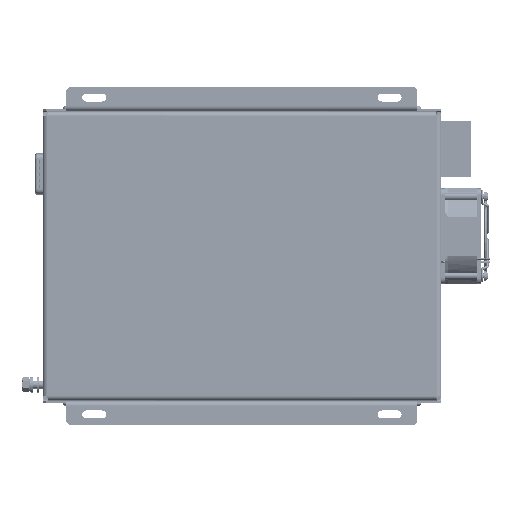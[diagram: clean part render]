
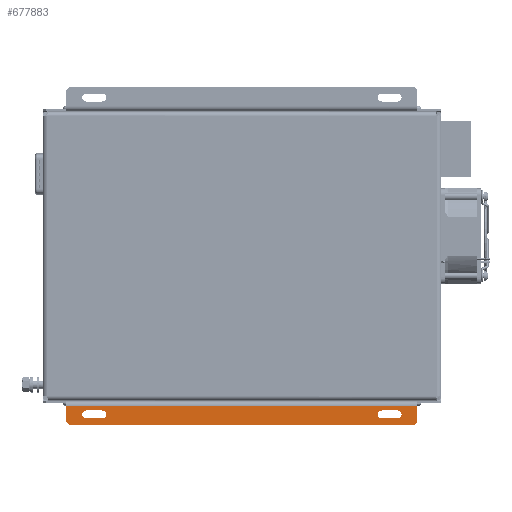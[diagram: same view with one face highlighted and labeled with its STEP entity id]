
A CAD part, front view. The second image highlights one B-rep face of the part: STEP entity #677883.
In plain terms, the highlighted planar face has unit normal (0, -1, 0).
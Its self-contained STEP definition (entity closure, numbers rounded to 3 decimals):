
#1207 = CARTESIAN_POINT ( 'NONE',  ( 102.25, -79., 98. ) ) ;
#36422 = LINE ( 'NONE', #136054, #773804 ) ;
#41626 = LINE ( 'NONE', #211905, #185820 ) ;
#50161 = LINE ( 'NONE', #606160, #595770 ) ;
#52142 = VERTEX_POINT ( 'NONE', #593471 ) ;
#55397 = CARTESIAN_POINT ( 'NONE',  ( 102.25, -79., 88. ) ) ;
#65563 = VERTEX_POINT ( 'NONE', #411029 ) ;
#69008 = EDGE_CURVE ( 'NONE', #494230, #520366, #650259, .T. ) ;
#73710 = VERTEX_POINT ( 'NONE', #528094 ) ;
#82709 = CARTESIAN_POINT ( 'NONE',  ( 97.25, -79., -98. ) ) ;
#99306 = CARTESIAN_POINT ( 'NONE',  ( 104.25, -79., 110.5 ) ) ;
#109304 = EDGE_CURVE ( 'NONE', #316987, #494230, #530121, .T. ) ;
#113140 = EDGE_CURVE ( 'NONE', #971729, #316987, #50161, .T. ) ;
#113473 = ORIENTED_EDGE ( 'NONE', *, *, #260530, .T. ) ;
#135414 = EDGE_CURVE ( 'NONE', #73710, #65563, #1141281, .T. ) ;
#136054 = CARTESIAN_POINT ( 'NONE',  ( 98.5, -79., 116.25 ) ) ;
#162538 = VECTOR ( 'NONE', #579403, 1000. ) ;
#167814 = VECTOR ( 'NONE', #1032721, 1000. ) ;
#174696 = DIRECTION ( 'NONE',  ( 1., 0., 0. ) ) ;
#185432 = DIRECTION ( 'NONE',  ( 0., 1., 0. ) ) ;
#185820 = VECTOR ( 'NONE', #662703, 1000. ) ;
#211905 = CARTESIAN_POINT ( 'NONE',  ( 106.25, -79., 110.5 ) ) ;
#224207 = DIRECTION ( 'NONE',  ( 0., -1., 0. ) ) ;
#233193 = AXIS2_PLACEMENT_3D ( 'NONE', #730735, #362067, #174696 ) ;
#237319 = EDGE_LOOP ( 'NONE', ( #896718, #1055159, #531152, #340157 ) ) ;
#253797 = ORIENTED_EDGE ( 'NONE', *, *, #515674, .F. ) ;
#258157 = VECTOR ( 'NONE', #296569, 1000. ) ;
#260530 = EDGE_CURVE ( 'NONE', #520366, #834019, #851239, .T. ) ;
#281166 = AXIS2_PLACEMENT_3D ( 'NONE', #856753, #1020980, #1154865 ) ;
#296569 = DIRECTION ( 'NONE',  ( 0., 0., -1. ) ) ;
#314643 = AXIS2_PLACEMENT_3D ( 'NONE', #987692, #185432, #542564 ) ;
#316987 = VERTEX_POINT ( 'NONE', #761911 ) ;
#318433 = CARTESIAN_POINT ( 'NONE',  ( 209., -79., -5.75 ) ) ;
#326677 = CIRCLE ( 'NONE', #233193, 2.5 ) ;
#340157 = ORIENTED_EDGE ( 'NONE', *, *, #434021, .F. ) ;
#346136 = CARTESIAN_POINT ( 'NONE',  ( 104.25, -79., -110.5 ) ) ;
#354723 = CARTESIAN_POINT ( 'NONE',  ( 97.25, -79., 0. ) ) ;
#361888 = ORIENTED_EDGE ( 'NONE', *, *, #135414, .F. ) ;
#362067 = DIRECTION ( 'NONE',  ( 0., 1., 0. ) ) ;
#388336 = EDGE_LOOP ( 'NONE', ( #1031359, #113473, #503254, #1133238, #643286, #581871 ) ) ;
#411029 = CARTESIAN_POINT ( 'NONE',  ( 97.25, -79., -88. ) ) ;
#422940 = FACE_OUTER_BOUND ( 'NONE', #388336, .T. ) ;
#434021 = EDGE_CURVE ( 'NONE', #607806, #823746, #881801, .T. ) ;
#435190 = EDGE_CURVE ( 'NONE', #512600, #971729, #36422, .T. ) ;
#474833 = CARTESIAN_POINT ( 'NONE',  ( 106.25, -79., -108.5 ) ) ;
#481772 = DIRECTION ( 'NONE',  ( -0.707, 0., 0.707 ) ) ;
#482216 = LINE ( 'NONE', #839390, #815526 ) ;
#494230 = VERTEX_POINT ( 'NONE', #788046 ) ;
#497040 = AXIS2_PLACEMENT_3D ( 'NONE', #534574, #891796, #557544 ) ;
#503254 = ORIENTED_EDGE ( 'NONE', *, *, #605888, .T. ) ;
#512600 = VERTEX_POINT ( 'NONE', #602999 ) ;
#515674 = EDGE_CURVE ( 'NONE', #52142, #73710, #844465, .T. ) ;
#515952 = ORIENTED_EDGE ( 'NONE', *, *, #738260, .F. ) ;
#516466 = CARTESIAN_POINT ( 'NONE',  ( 92.75, -79., 110.5 ) ) ;
#520366 = VERTEX_POINT ( 'NONE', #346136 ) ;
#528094 = CARTESIAN_POINT ( 'NONE',  ( 102.25, -79., -88. ) ) ;
#530121 = LINE ( 'NONE', #635188, #755672 ) ;
#531152 = ORIENTED_EDGE ( 'NONE', *, *, #1121653, .T. ) ;
#534403 = VERTEX_POINT ( 'NONE', #55397 ) ;
#534574 = CARTESIAN_POINT ( 'NONE',  ( 99.75, -79., -98. ) ) ;
#542564 = DIRECTION ( 'NONE',  ( 1., 0., 0. ) ) ;
#550936 = CARTESIAN_POINT ( 'NONE',  ( 97.25, -79., 88. ) ) ;
#552903 = CIRCLE ( 'NONE', #497040, 2.5 ) ;
#557544 = DIRECTION ( 'NONE',  ( 1., 0., 0. ) ) ;
#572390 = VERTEX_POINT ( 'NONE', #82709 ) ;
#573706 = CARTESIAN_POINT ( 'NONE',  ( 92.75, -79., -110.5 ) ) ;
#579403 = DIRECTION ( 'NONE',  ( 1., 0., 0. ) ) ;
#581043 = DIRECTION ( 'NONE',  ( 1., 0., 0. ) ) ;
#581871 = ORIENTED_EDGE ( 'NONE', *, *, #109304, .T. ) ;
#593471 = CARTESIAN_POINT ( 'NONE',  ( 102.25, -79., -98. ) ) ;
#595770 = VECTOR ( 'NONE', #852533, 1000. ) ;
#602999 = CARTESIAN_POINT ( 'NONE',  ( 106.25, -79., 108.5 ) ) ;
#605888 = EDGE_CURVE ( 'NONE', #834019, #512600, #41626, .T. ) ;
#606160 = CARTESIAN_POINT ( 'NONE',  ( 92.75, -79., 110.5 ) ) ;
#607806 = VERTEX_POINT ( 'NONE', #644772 ) ;
#635188 = CARTESIAN_POINT ( 'NONE',  ( 94.25, -79., 110.5 ) ) ;
#643286 = ORIENTED_EDGE ( 'NONE', *, *, #113140, .T. ) ;
#644772 = CARTESIAN_POINT ( 'NONE',  ( 97.25, -79., 98. ) ) ;
#650259 = LINE ( 'NONE', #573706, #162538 ) ;
#657305 = DIRECTION ( 'NONE',  ( 0., 0., 1. ) ) ;
#662703 = DIRECTION ( 'NONE',  ( 0., 0., 1. ) ) ;
#669230 = PLANE ( 'NONE',  #1105551 ) ;
#677883 = ADVANCED_FACE ( 'NONE', ( #768510, #422940, #779955 ), #669230, .T. ) ;
#700353 = DIRECTION ( 'NONE',  ( 0., 0., -1. ) ) ;
#730735 = CARTESIAN_POINT ( 'NONE',  ( 99.75, -79., 98. ) ) ;
#738260 = EDGE_CURVE ( 'NONE', #572390, #52142, #552903, .T. ) ;
#750849 = CARTESIAN_POINT ( 'NONE',  ( 102.25, -79., 0. ) ) ;
#755672 = VECTOR ( 'NONE', #986728, 1000. ) ;
#761911 = CARTESIAN_POINT ( 'NONE',  ( 94.25, -79., 110.5 ) ) ;
#768510 = FACE_BOUND ( 'NONE', #910224, .T. ) ;
#773804 = VECTOR ( 'NONE', #481772, 1000. ) ;
#779955 = FACE_BOUND ( 'NONE', #237319, .T. ) ;
#788046 = CARTESIAN_POINT ( 'NONE',  ( 94.25, -79., -110.5 ) ) ;
#815526 = VECTOR ( 'NONE', #938899, 1000. ) ;
#823746 = VERTEX_POINT ( 'NONE', #550936 ) ;
#829545 = CARTESIAN_POINT ( 'NONE',  ( 102.25, -79., 0. ) ) ;
#834019 = VERTEX_POINT ( 'NONE', #474833 ) ;
#839390 = CARTESIAN_POINT ( 'NONE',  ( 97.25, -79., 0. ) ) ;
#844465 = LINE ( 'NONE', #750849, #1006277 ) ;
#851239 = LINE ( 'NONE', #318433, #167814 ) ;
#852533 = DIRECTION ( 'NONE',  ( -1., 0., 0. ) ) ;
#856753 = CARTESIAN_POINT ( 'NONE',  ( 99.75, -79., -88. ) ) ;
#866435 = VERTEX_POINT ( 'NONE', #1207 ) ;
#881801 = LINE ( 'NONE', #354723, #1144534 ) ;
#891796 = DIRECTION ( 'NONE',  ( 0., -1., 0. ) ) ;
#896718 = ORIENTED_EDGE ( 'NONE', *, *, #1141264, .T. ) ;
#905935 = ORIENTED_EDGE ( 'NONE', *, *, #957702, .T. ) ;
#910224 = EDGE_LOOP ( 'NONE', ( #253797, #515952, #905935, #361888 ) ) ;
#938899 = DIRECTION ( 'NONE',  ( 0., 0., 1. ) ) ;
#957702 = EDGE_CURVE ( 'NONE', #572390, #65563, #482216, .T. ) ;
#971729 = VERTEX_POINT ( 'NONE', #99306 ) ;
#986728 = DIRECTION ( 'NONE',  ( 0., 0., -1. ) ) ;
#987692 = CARTESIAN_POINT ( 'NONE',  ( 99.75, -79., 88. ) ) ;
#988352 = CIRCLE ( 'NONE', #314643, 2.5 ) ;
#1005217 = LINE ( 'NONE', #829545, #258157 ) ;
#1006277 = VECTOR ( 'NONE', #657305, 1000. ) ;
#1020980 = DIRECTION ( 'NONE',  ( 0., -1., 0. ) ) ;
#1031359 = ORIENTED_EDGE ( 'NONE', *, *, #69008, .T. ) ;
#1032721 = DIRECTION ( 'NONE',  ( 0.707, 0., 0.707 ) ) ;
#1055159 = ORIENTED_EDGE ( 'NONE', *, *, #1079032, .T. ) ;
#1079032 = EDGE_CURVE ( 'NONE', #866435, #534403, #1005217, .T. ) ;
#1105551 = AXIS2_PLACEMENT_3D ( 'NONE', #516466, #224207, #581043 ) ;
#1121653 = EDGE_CURVE ( 'NONE', #534403, #823746, #988352, .T. ) ;
#1133238 = ORIENTED_EDGE ( 'NONE', *, *, #435190, .T. ) ;
#1141264 = EDGE_CURVE ( 'NONE', #607806, #866435, #326677, .T. ) ;
#1141281 = CIRCLE ( 'NONE', #281166, 2.5 ) ;
#1144534 = VECTOR ( 'NONE', #700353, 1000. ) ;
#1154865 = DIRECTION ( 'NONE',  ( 1., 0., 0. ) ) ;
